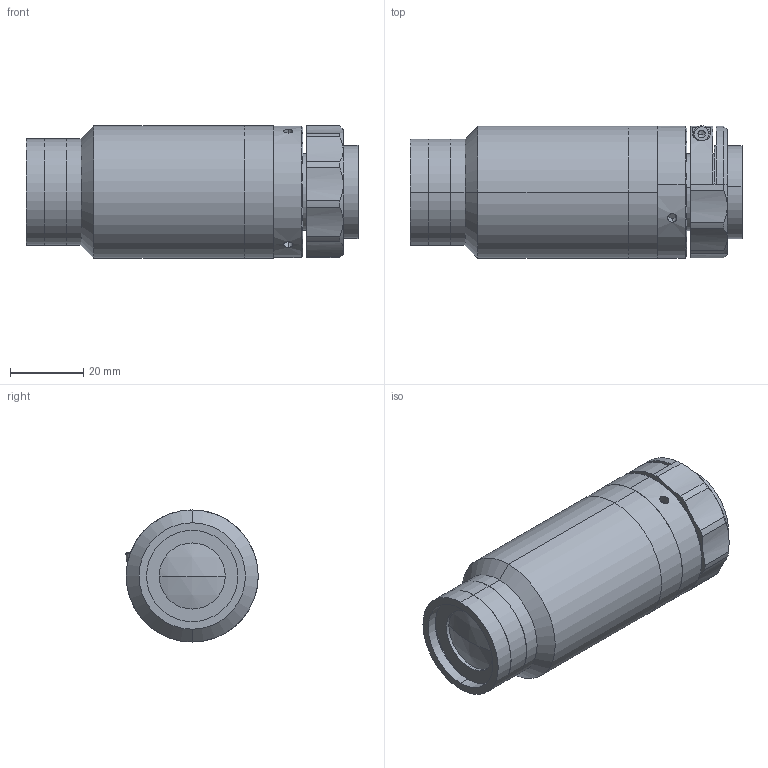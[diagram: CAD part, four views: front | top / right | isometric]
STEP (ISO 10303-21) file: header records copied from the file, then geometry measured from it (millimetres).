
FILE_DESCRIPTION (( 'STEP AP203' ), '1' );
FILE_NAME ('XF-MH01X799.STEP', '2020-08-24T07:11:36', ( 'canrill-02' ), ( '' ), 'SwSTEP 2.0', 'SolidWorks 2014', '' );
FILE_SCHEMA (( 'CONFIG_CONTROL_DESIGN' ));
Length unit declared in the file: millimetre
Products named in the file (1): XF-MH01X799
Bounding box: 90.5 x 36.11 x 36 mm (x, y, z)
Surface area: 15933.4 mm2 (no closed solid volume)
Topology: 0 solids, 11 shells, 99 faces, 264 edges, 178 vertices
Faces by surface type: cylinder 47, plane 33, cone 15, sphere 2, torus 2
Entity records: 3464 total; most frequent: CARTESIAN_POINT 861, DIRECTION 579, ORIENTED_EDGE 448, EDGE_CURVE 262, AXIS2_PLACEMENT_3D 240, VERTEX_POINT 178, CIRCLE 140, EDGE_LOOP 123
